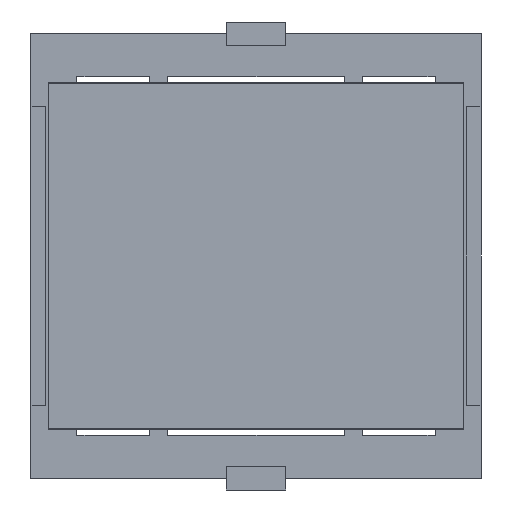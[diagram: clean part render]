
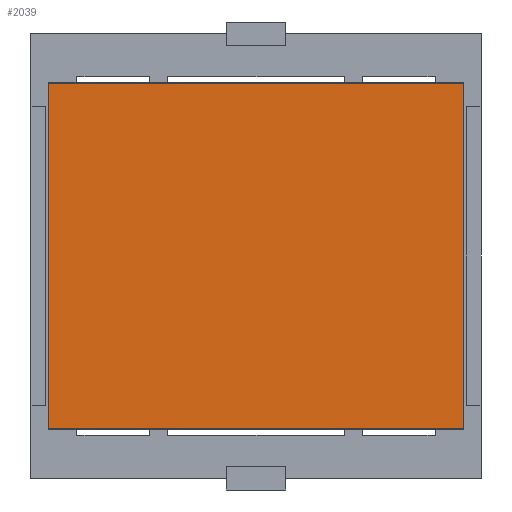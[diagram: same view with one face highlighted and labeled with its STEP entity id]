
A CAD part, front view. The second image highlights one B-rep face of the part: STEP entity #2039.
In plain terms, the highlighted planar face has unit normal (0, -1, 0).
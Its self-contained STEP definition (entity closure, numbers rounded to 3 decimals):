
#189 = LINE ( 'NONE', #1127, #4993 ) ;
#333 = CARTESIAN_POINT ( 'NONE',  ( -15.712, -18.701, -2.749 ) ) ;
#425 = LINE ( 'NONE', #4196, #6375 ) ;
#669 = CARTESIAN_POINT ( 'NONE',  ( -15.712, -18.701, 26.207 ) ) ;
#959 = VECTOR ( 'NONE', #6327, 1000. ) ;
#1127 = CARTESIAN_POINT ( 'NONE',  ( -15.712, -18.701, -2.749 ) ) ;
#1201 = DIRECTION ( 'NONE',  ( 1., 0., 0. ) ) ;
#1268 = DIRECTION ( 'NONE',  ( 0., 0., 1. ) ) ;
#1283 = CARTESIAN_POINT ( 'NONE',  ( 19.086, -18.701, -2.749 ) ) ;
#1597 = EDGE_CURVE ( 'NONE', #2738, #3105, #6816, .T. ) ;
#1740 = CARTESIAN_POINT ( 'NONE',  ( -15.712, -18.701, 26.207 ) ) ;
#1905 = VERTEX_POINT ( 'NONE', #6293 ) ;
#2039 = ADVANCED_FACE ( 'NONE', ( #6060 ), #5003, .F. ) ;
#2738 = VERTEX_POINT ( 'NONE', #1283 ) ;
#2886 = ORIENTED_EDGE ( 'NONE', *, *, #1597, .F. ) ;
#3105 = VERTEX_POINT ( 'NONE', #333 ) ;
#3320 = LINE ( 'NONE', #1740, #5197 ) ;
#3347 = DIRECTION ( 'NONE',  ( 0., 1., 0. ) ) ;
#3874 = VERTEX_POINT ( 'NONE', #3886 ) ;
#3886 = CARTESIAN_POINT ( 'NONE',  ( 19.086, -18.701, 26.207 ) ) ;
#4107 = EDGE_CURVE ( 'NONE', #3105, #1905, #189, .T. ) ;
#4196 = CARTESIAN_POINT ( 'NONE',  ( 19.086, -18.701, -2.749 ) ) ;
#4330 = ORIENTED_EDGE ( 'NONE', *, *, #6040, .F. ) ;
#4802 = ORIENTED_EDGE ( 'NONE', *, *, #6636, .F. ) ;
#4929 = DIRECTION ( 'NONE',  ( 0., 0., -1. ) ) ;
#4993 = VECTOR ( 'NONE', #1268, 1000. ) ;
#5003 = PLANE ( 'NONE',  #5619 ) ;
#5197 = VECTOR ( 'NONE', #1201, 1000. ) ;
#5619 = AXIS2_PLACEMENT_3D ( 'NONE', #669, #3347, #6094 ) ;
#5801 = CARTESIAN_POINT ( 'NONE',  ( -15.712, -18.701, -2.749 ) ) ;
#6040 = EDGE_CURVE ( 'NONE', #1905, #3874, #3320, .T. ) ;
#6060 = FACE_OUTER_BOUND ( 'NONE', #6718, .T. ) ;
#6094 = DIRECTION ( 'NONE',  ( 0., 0., 1. ) ) ;
#6293 = CARTESIAN_POINT ( 'NONE',  ( -15.712, -18.701, 26.207 ) ) ;
#6327 = DIRECTION ( 'NONE',  ( -1., 0., 0. ) ) ;
#6375 = VECTOR ( 'NONE', #4929, 1000. ) ;
#6636 = EDGE_CURVE ( 'NONE', #3874, #2738, #425, .T. ) ;
#6718 = EDGE_LOOP ( 'NONE', ( #6875, #2886, #4802, #4330 ) ) ;
#6816 = LINE ( 'NONE', #5801, #959 ) ;
#6875 = ORIENTED_EDGE ( 'NONE', *, *, #4107, .F. ) ;
